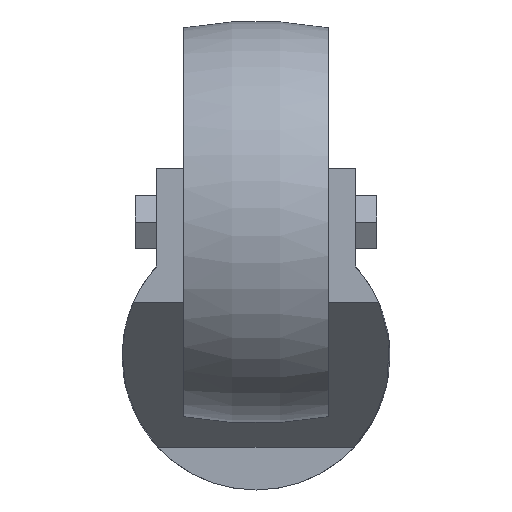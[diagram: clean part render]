
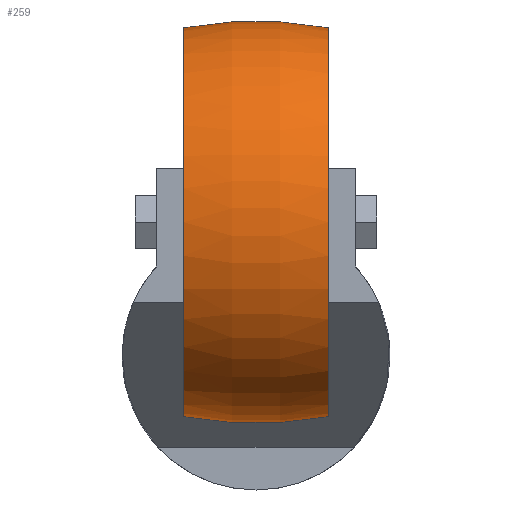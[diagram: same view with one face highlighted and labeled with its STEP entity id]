
A CAD part, front view. The second image highlights one B-rep face of the part: STEP entity #259.
In plain terms, the highlighted toroidal (fillet/blend) face has major radius 37.5 mm and minor radius 75 mm.
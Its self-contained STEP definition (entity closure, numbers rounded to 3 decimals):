
#39 = DIRECTION ( 'NONE',  ( 0., 1., 0. ) ) ;
#91 = AXIS2_PLACEMENT_3D ( 'NONE', #347, #777, #183 ) ;
#116 = CIRCLE ( 'NONE', #554, 75. ) ;
#125 = CIRCLE ( 'NONE', #738, 36.275 ) ;
#160 = CARTESIAN_POINT ( 'NONE',  ( 0., -63.5, 25. ) ) ;
#175 = EDGE_LOOP ( 'NONE', ( #448, #433, #650, #795 ) ) ;
#183 = DIRECTION ( 'NONE',  ( 0., 0., 1. ) ) ;
#224 = EDGE_CURVE ( 'NONE', #989, #958, #452, .T. ) ;
#229 = EDGE_CURVE ( 'NONE', #720, #263, #125, .T. ) ;
#239 = TOROIDAL_SURFACE ( 'NONE', #715, -37.5, 75. ) ;
#259 = ADVANCED_FACE ( 'NONE', ( #1041 ), #239, .T. ) ;
#263 = VERTEX_POINT ( 'NONE', #597 ) ;
#287 = CARTESIAN_POINT ( 'NONE',  ( -13.5, -63.5, -11.275 ) ) ;
#294 = DIRECTION ( 'NONE',  ( 0., 0., 1. ) ) ;
#316 = DIRECTION ( 'NONE',  ( 0., -1., 0. ) ) ;
#347 = CARTESIAN_POINT ( 'NONE',  ( 13.5, -63.5, 25. ) ) ;
#433 = ORIENTED_EDGE ( 'NONE', *, *, #224, .T. ) ;
#439 = CARTESIAN_POINT ( 'NONE',  ( -13.5, -63.5, 25. ) ) ;
#448 = ORIENTED_EDGE ( 'NONE', *, *, #717, .F. ) ;
#452 = CIRCLE ( 'NONE', #91, 36.275 ) ;
#508 = DIRECTION ( 'NONE',  ( -1., 0., 0. ) ) ;
#526 = DIRECTION ( 'NONE',  ( -1., 0., 0. ) ) ;
#554 = AXIS2_PLACEMENT_3D ( 'NONE', #573, #316, #1043 ) ;
#573 = CARTESIAN_POINT ( 'NONE',  ( 0., -63.5, -12.5 ) ) ;
#597 = CARTESIAN_POINT ( 'NONE',  ( -13.5, -63.5, 61.275 ) ) ;
#605 = EDGE_CURVE ( 'NONE', #958, #263, #116, .T. ) ;
#618 = DIRECTION ( 'NONE',  ( 0., 0., 1. ) ) ;
#650 = ORIENTED_EDGE ( 'NONE', *, *, #605, .T. ) ;
#710 = CARTESIAN_POINT ( 'NONE',  ( 13.5, -63.5, -11.275 ) ) ;
#715 = AXIS2_PLACEMENT_3D ( 'NONE', #160, #508, #869 ) ;
#717 = EDGE_CURVE ( 'NONE', #989, #720, #727, .T. ) ;
#720 = VERTEX_POINT ( 'NONE', #287 ) ;
#727 = CIRCLE ( 'NONE', #873, 75. ) ;
#738 = AXIS2_PLACEMENT_3D ( 'NONE', #439, #526, #618 ) ;
#777 = DIRECTION ( 'NONE',  ( -1., 0., 0. ) ) ;
#795 = ORIENTED_EDGE ( 'NONE', *, *, #229, .F. ) ;
#822 = CARTESIAN_POINT ( 'NONE',  ( 0., -63.5, 62.5 ) ) ;
#869 = DIRECTION ( 'NONE',  ( 0., 0., 1. ) ) ;
#873 = AXIS2_PLACEMENT_3D ( 'NONE', #822, #39, #294 ) ;
#958 = VERTEX_POINT ( 'NONE', #1040 ) ;
#989 = VERTEX_POINT ( 'NONE', #710 ) ;
#1040 = CARTESIAN_POINT ( 'NONE',  ( 13.5, -63.5, 61.275 ) ) ;
#1041 = FACE_OUTER_BOUND ( 'NONE', #175, .T. ) ;
#1043 = DIRECTION ( 'NONE',  ( 0., 0., -1. ) ) ;
